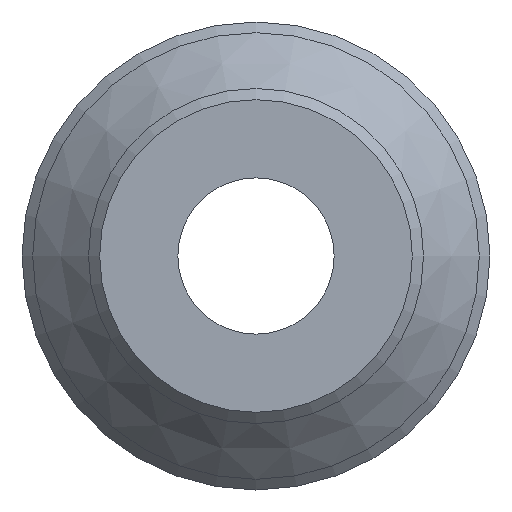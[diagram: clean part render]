
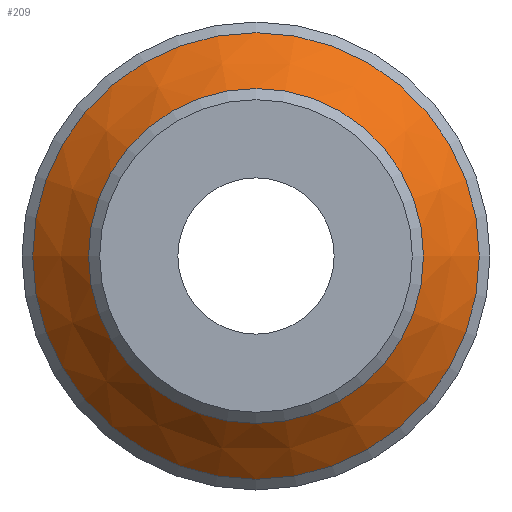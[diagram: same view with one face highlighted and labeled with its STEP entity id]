
A CAD part, front view. The second image highlights one B-rep face of the part: STEP entity #209.
In plain terms, the highlighted conical face has half-angle 45 degrees and reference radius 8.75 mm.
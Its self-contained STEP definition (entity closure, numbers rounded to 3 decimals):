
#36=FACE_OUTER_BOUND('',#52,.T.);
#52=EDGE_LOOP('',(#168,#169,#170,#171));
#63=LINE('',#379,#72);
#72=VECTOR('',#321,8.75);
#79=CIRCLE('',#243,7.5);
#88=CIRCLE('',#259,10.);
#95=VERTEX_POINT('',#347);
#104=VERTEX_POINT('',#377);
#112=EDGE_CURVE('',#95,#95,#79,.T.);
#126=EDGE_CURVE('',#104,#104,#88,.T.);
#127=EDGE_CURVE('',#104,#95,#63,.T.);
#168=ORIENTED_EDGE('',*,*,#126,.F.);
#169=ORIENTED_EDGE('',*,*,#127,.T.);
#170=ORIENTED_EDGE('',*,*,#112,.T.);
#171=ORIENTED_EDGE('',*,*,#127,.F.);
#185=CONICAL_SURFACE('',#258,8.75,0.785);
#209=ADVANCED_FACE('',(#36),#185,.T.);
#243=AXIS2_PLACEMENT_3D('',#348,#282,#283);
#258=AXIS2_PLACEMENT_3D('',#376,#317,#318);
#259=AXIS2_PLACEMENT_3D('',#378,#319,#320);
#282=DIRECTION('center_axis',(0.,1.,0.));
#283=DIRECTION('ref_axis',(-1.,0.,0.));
#317=DIRECTION('center_axis',(0.,1.,0.));
#318=DIRECTION('ref_axis',(-1.,0.,0.));
#319=DIRECTION('center_axis',(0.,1.,0.));
#320=DIRECTION('ref_axis',(-1.,0.,0.));
#321=DIRECTION('',(-0.707,-0.707,0.));
#347=CARTESIAN_POINT('',(-0.479,-15.532,0.));
#348=CARTESIAN_POINT('Origin',(-7.979,-15.532,0.));
#376=CARTESIAN_POINT('Origin',(-7.979,-14.282,0.));
#377=CARTESIAN_POINT('',(2.021,-13.032,0.));
#378=CARTESIAN_POINT('Origin',(-7.979,-13.032,0.));
#379=CARTESIAN_POINT('',(0.771,-14.282,0.));
